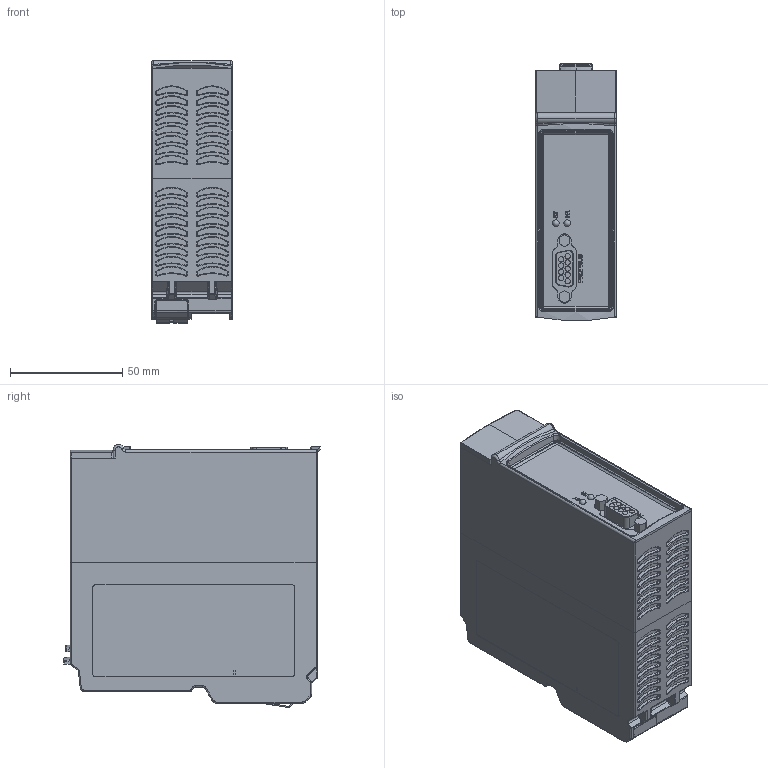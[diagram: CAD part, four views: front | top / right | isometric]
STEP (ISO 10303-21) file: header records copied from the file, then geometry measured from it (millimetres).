
FILE_DESCRIPTION (( 'STEP AP214' ), '1' );
FILE_NAME ('NX5001_20130711.STEP', '2013-07-12T16:28:15', ( 'ALTUS' ), ( '' ), 'SwSTEP 2.0', 'SolidWorks 2011', '' );
FILE_SCHEMA (( 'AUTOMOTIVE_DESIGN' ));
Length unit declared in the file: millimetre
Products named in the file (1): NX5001_20130711
Bounding box: 36 x 114.46 x 117.09 mm (x, y, z)
Surface area: 68839.5 mm2 (no closed solid volume)
Topology: 0 solids, 26 shells, 2222 faces, 5548 edges, 3442 vertices
Faces by surface type: bspline 739, plane 679, cylinder 354, torus 238, cone 200, sphere 12
Entity records: 102844 total; most frequent: CARTESIAN_POINT 31148, ORIENTED_EDGE 10974, DIRECTION 8199, EDGE_CURVE 5525, VERTEX_POINT 3440, AXIS2_PLACEMENT_3D 3087, EDGE_LOOP 2335, UNCERTAINTY_MEASURE_WITH_UNIT 2233
